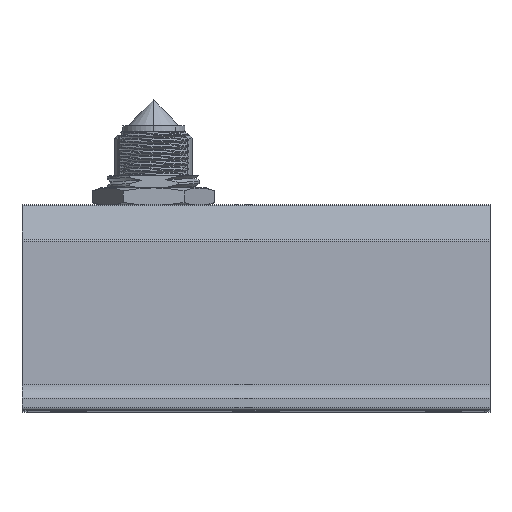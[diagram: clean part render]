
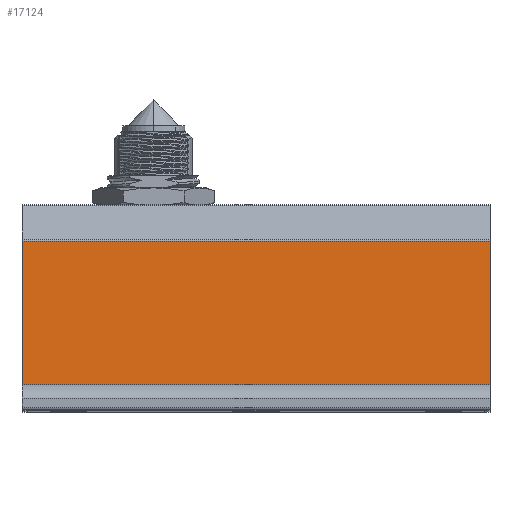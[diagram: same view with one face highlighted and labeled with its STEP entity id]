
A CAD part, top view. The second image highlights one B-rep face of the part: STEP entity #17124.
In plain terms, the highlighted planar face has unit normal (0, 0.035, 0.999).
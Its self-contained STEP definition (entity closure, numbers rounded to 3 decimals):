
#2133=DIRECTION('',(0.,-0.999,0.035));
#2134=VECTOR('',#2133,24.509);
#2135=CARTESIAN_POINT('',(-40.,28.867,106.138));
#2136=LINE('',#2135,#2134);
#2246=DIRECTION('',(0.,0.999,-0.035));
#2247=VECTOR('',#2246,24.509);
#2248=CARTESIAN_POINT('',(40.,4.373,106.993));
#2249=LINE('',#2248,#2247);
#2551=DIRECTION('',(-1.,0.,0.));
#2552=VECTOR('',#2551,80.);
#2553=CARTESIAN_POINT('',(40.,28.867,106.138));
#2554=LINE('',#2553,#2552);
#2555=DIRECTION('',(1.,0.,0.));
#2556=VECTOR('',#2555,80.);
#2557=CARTESIAN_POINT('',(-40.,4.373,106.993));
#2558=LINE('',#2557,#2556);
#12474=CARTESIAN_POINT('',(-40.,28.867,106.138));
#12475=VERTEX_POINT('',#12474);
#12476=CARTESIAN_POINT('',(-40.,4.373,106.993));
#12477=VERTEX_POINT('',#12476);
#12524=CARTESIAN_POINT('',(40.,4.373,106.993));
#12525=VERTEX_POINT('',#12524);
#12526=CARTESIAN_POINT('',(40.,28.867,106.138));
#12527=VERTEX_POINT('',#12526);
#17112=CARTESIAN_POINT('',(40.,2.,107.076));
#17113=DIRECTION('',(0.,-0.035,-0.999));
#17114=DIRECTION('',(0.,0.999,-0.035));
#17115=AXIS2_PLACEMENT_3D('',#17112,#17113,#17114);
#17116=PLANE('',#17115);
#17117=ORIENTED_EDGE('',*,*,#16747,.F.);
#17118=ORIENTED_EDGE('',*,*,#17106,.F.);
#17119=ORIENTED_EDGE('',*,*,#16826,.F.);
#17121=ORIENTED_EDGE('',*,*,#17120,.F.);
#17122=EDGE_LOOP('',(#17117,#17118,#17119,#17121));
#17123=FACE_OUTER_BOUND('',#17122,.F.);
#17124=ADVANCED_FACE('',(#17123),#17116,.F.);
#16747=EDGE_CURVE('',#12475,#12477,#2136,.T.);
#16826=EDGE_CURVE('',#12525,#12527,#2249,.T.);
#17106=EDGE_CURVE('',#12527,#12475,#2554,.T.);
#17120=EDGE_CURVE('',#12477,#12525,#2558,.T.);
